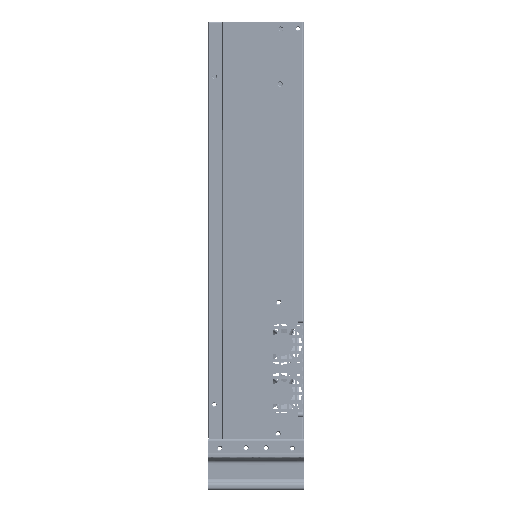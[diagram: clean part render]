
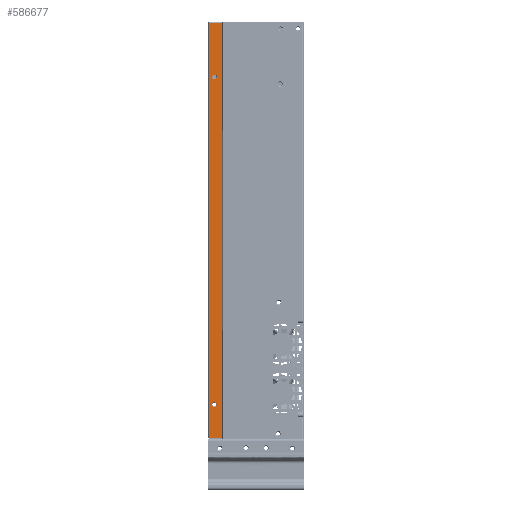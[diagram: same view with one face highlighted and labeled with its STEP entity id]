
A CAD part, left-side view. The second image highlights one B-rep face of the part: STEP entity #586677.
In plain terms, the highlighted planar face has unit normal (-1, 0, 0).
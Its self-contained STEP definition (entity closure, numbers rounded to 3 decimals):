
#868 = FACE_OUTER_BOUND ( 'NONE', #390145, .T. ) ;
#25741 = DIRECTION ( 'NONE',  ( 0., 0.707, 0.707 ) ) ;
#26008 = DIRECTION ( 'NONE',  ( 0., 0., -1. ) ) ;
#32308 = AXIS2_PLACEMENT_3D ( 'NONE', #658169, #991654, #1013231 ) ;
#69635 = ORIENTED_EDGE ( 'NONE', *, *, #500924, .F. ) ;
#77780 = EDGE_LOOP ( 'NONE', ( #243244, #69635 ) ) ;
#93758 = FACE_BOUND ( 'NONE', #543404, .T. ) ;
#105761 = CARTESIAN_POINT ( 'NONE',  ( 0., 44.2, -1. ) ) ;
#136234 = EDGE_CURVE ( 'NONE', #764954, #525594, #849411, .T. ) ;
#139026 = CARTESIAN_POINT ( 'NONE',  ( 0., 32.5, -383.8 ) ) ;
#156304 = CARTESIAN_POINT ( 'NONE',  ( 0., 39.48, -352.603 ) ) ;
#158025 = LINE ( 'NONE', #507825, #899180 ) ;
#159550 = FACE_BOUND ( 'NONE', #77780, .T. ) ;
#188951 = VECTOR ( 'NONE', #614206, 1000. ) ;
#196700 = CARTESIAN_POINT ( 'NONE',  ( 0., 44.2, -292. ) ) ;
#199152 = ORIENTED_EDGE ( 'NONE', *, *, #480179, .F. ) ;
#233497 = VERTEX_POINT ( 'NONE', #472789 ) ;
#243244 = ORIENTED_EDGE ( 'NONE', *, *, #647232, .F. ) ;
#249890 = CARTESIAN_POINT ( 'NONE',  ( 0., 39.116, -50.582 ) ) ;
#255327 = ORIENTED_EDGE ( 'NONE', *, *, #949770, .F. ) ;
#263807 = AXIS2_PLACEMENT_3D ( 'NONE', #156304, #1080405, #998282 ) ;
#284193 = CARTESIAN_POINT ( 'NONE',  ( 0., 39.116, -52.752 ) ) ;
#285351 = EDGE_CURVE ( 'NONE', #286316, #597629, #980242, .T. ) ;
#286316 = VERTEX_POINT ( 'NONE', #284193 ) ;
#288807 = AXIS2_PLACEMENT_3D ( 'NONE', #769487, #359409, #25741 ) ;
#297187 = CARTESIAN_POINT ( 'NONE',  ( 0., 32.5, -0.8 ) ) ;
#301902 = CARTESIAN_POINT ( 'NONE',  ( 0., 44.2, -383.8 ) ) ;
#338183 = CARTESIAN_POINT ( 'NONE',  ( 0., 39.116, -50.582 ) ) ;
#347481 = AXIS2_PLACEMENT_3D ( 'NONE', #249890, #490606, #824127 ) ;
#359409 = DIRECTION ( 'NONE',  ( 1., 0., 0. ) ) ;
#364307 = VERTEX_POINT ( 'NONE', #301902 ) ;
#380192 = CIRCLE ( 'NONE', #347481, 2.171 ) ;
#390145 = EDGE_LOOP ( 'NONE', ( #858098, #590994, #199152, #507192, #255327 ) ) ;
#472789 = CARTESIAN_POINT ( 'NONE',  ( 0., 39.48, -354.774 ) ) ;
#480179 = EDGE_CURVE ( 'NONE', #364307, #1047103, #787186, .T. ) ;
#490606 = DIRECTION ( 'NONE',  ( -1., 0., 0. ) ) ;
#500924 = EDGE_CURVE ( 'NONE', #829996, #233497, #770436, .T. ) ;
#504023 = DIRECTION ( 'NONE',  ( 0., 0., 1. ) ) ;
#507192 = ORIENTED_EDGE ( 'NONE', *, *, #653485, .F. ) ;
#507825 = CARTESIAN_POINT ( 'NONE',  ( 0., 43.875, -383.8 ) ) ;
#508882 = AXIS2_PLACEMENT_3D ( 'NONE', #338183, #775222, #26008 ) ;
#525594 = VERTEX_POINT ( 'NONE', #297187 ) ;
#543404 = EDGE_LOOP ( 'NONE', ( #1030319, #928952 ) ) ;
#569681 = DIRECTION ( 'NONE',  ( -1., 0., 0. ) ) ;
#582494 = VECTOR ( 'NONE', #797844, 1000. ) ;
#586677 = ADVANCED_FACE ( 'NONE', ( #159550, #93758, #868 ), #914050, .T. ) ;
#590994 = ORIENTED_EDGE ( 'NONE', *, *, #661225, .F. ) ;
#597629 = VERTEX_POINT ( 'NONE', #707049 ) ;
#614206 = DIRECTION ( 'NONE',  ( 0., -1., 0. ) ) ;
#614515 = CARTESIAN_POINT ( 'NONE',  ( 0., 44., -0.8 ) ) ;
#647232 = EDGE_CURVE ( 'NONE', #233497, #829996, #853389, .T. ) ;
#653485 = EDGE_CURVE ( 'NONE', #738509, #364307, #158025, .T. ) ;
#658169 = CARTESIAN_POINT ( 'NONE',  ( 0., 39.48, -352.603 ) ) ;
#661225 = EDGE_CURVE ( 'NONE', #1047103, #764954, #830478, .T. ) ;
#671866 = DIRECTION ( 'NONE',  ( 0., 1., 0. ) ) ;
#707049 = CARTESIAN_POINT ( 'NONE',  ( 0., 39.116, -48.411 ) ) ;
#738509 = VERTEX_POINT ( 'NONE', #139026 ) ;
#764954 = VERTEX_POINT ( 'NONE', #614515 ) ;
#769487 = CARTESIAN_POINT ( 'NONE',  ( 0., 44., -1. ) ) ;
#770436 = CIRCLE ( 'NONE', #263807, 2.171 ) ;
#775222 = DIRECTION ( 'NONE',  ( -1., 0., 0. ) ) ;
#787186 = LINE ( 'NONE', #196700, #582494 ) ;
#797844 = DIRECTION ( 'NONE',  ( 0., 0., 1. ) ) ;
#824127 = DIRECTION ( 'NONE',  ( 0., 0., -1. ) ) ;
#829996 = VERTEX_POINT ( 'NONE', #904055 ) ;
#830478 = CIRCLE ( 'NONE', #288807, 0.2 ) ;
#849411 = LINE ( 'NONE', #1040479, #188951 ) ;
#853389 = CIRCLE ( 'NONE', #32308, 2.171 ) ;
#858098 = ORIENTED_EDGE ( 'NONE', *, *, #136234, .F. ) ;
#899180 = VECTOR ( 'NONE', #671866, 1000. ) ;
#904055 = CARTESIAN_POINT ( 'NONE',  ( 0., 39.48, -350.432 ) ) ;
#914050 = PLANE ( 'NONE',  #961840 ) ;
#928952 = ORIENTED_EDGE ( 'NONE', *, *, #956347, .F. ) ;
#947254 = VECTOR ( 'NONE', #991718, 1000. ) ;
#949770 = EDGE_CURVE ( 'NONE', #525594, #738509, #1046939, .T. ) ;
#956347 = EDGE_CURVE ( 'NONE', #597629, #286316, #380192, .T. ) ;
#961840 = AXIS2_PLACEMENT_3D ( 'NONE', #990682, #569681, #504023 ) ;
#970218 = CARTESIAN_POINT ( 'NONE',  ( 0., 32.5, -292. ) ) ;
#980242 = CIRCLE ( 'NONE', #508882, 2.171 ) ;
#990682 = CARTESIAN_POINT ( 'NONE',  ( 0., 44., -384. ) ) ;
#991654 = DIRECTION ( 'NONE',  ( -1., 0., 0. ) ) ;
#991718 = DIRECTION ( 'NONE',  ( 0., 0., -1. ) ) ;
#998282 = DIRECTION ( 'NONE',  ( 0., 0., -1. ) ) ;
#1013231 = DIRECTION ( 'NONE',  ( 0., 0., -1. ) ) ;
#1030319 = ORIENTED_EDGE ( 'NONE', *, *, #285351, .F. ) ;
#1040479 = CARTESIAN_POINT ( 'NONE',  ( 0., 44., -0.8 ) ) ;
#1046939 = LINE ( 'NONE', #970218, #947254 ) ;
#1047103 = VERTEX_POINT ( 'NONE', #105761 ) ;
#1080405 = DIRECTION ( 'NONE',  ( -1., 0., 0. ) ) ;
